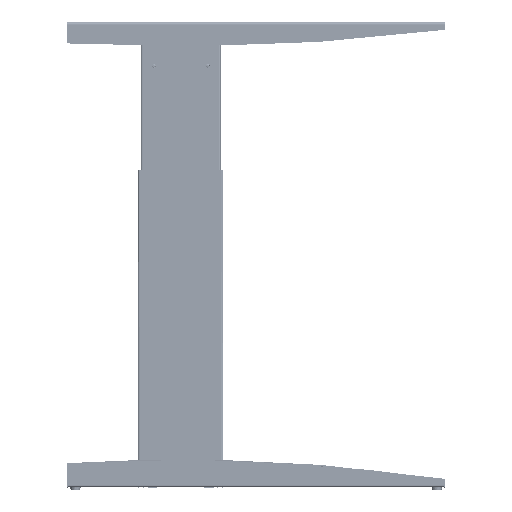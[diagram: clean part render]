
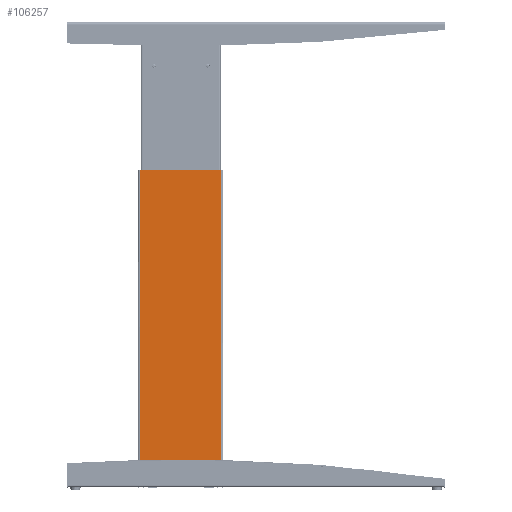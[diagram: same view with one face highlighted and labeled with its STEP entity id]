
A CAD part, left-side view. The second image highlights one B-rep face of the part: STEP entity #106257.
In plain terms, the highlighted planar face has unit normal (-1, 0, 0).
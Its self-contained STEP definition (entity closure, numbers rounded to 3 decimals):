
#2108 = DIRECTION ( 'NONE',  ( -1., 0., 0. ) ) ;
#5170 = CARTESIAN_POINT ( 'NONE',  ( 0., -78.85, 612. ) ) ;
#8661 = CARTESIAN_POINT ( 'NONE',  ( 0., -82.5, 2. ) ) ;
#9158 = CARTESIAN_POINT ( 'NONE',  ( 0., 82.5, 612. ) ) ;
#10451 = VECTOR ( 'NONE', #102966, 1000. ) ;
#14215 = DIRECTION ( 'NONE',  ( 0., 0., 1. ) ) ;
#17275 = LINE ( 'NONE', #71971, #43100 ) ;
#18757 = LINE ( 'NONE', #5170, #113087 ) ;
#27929 = ORIENTED_EDGE ( 'NONE', *, *, #39404, .T. ) ;
#33728 = EDGE_LOOP ( 'NONE', ( #76167, #119293, #89631, #27929 ) ) ;
#36413 = CARTESIAN_POINT ( 'NONE',  ( 0., 78.85, 2. ) ) ;
#36912 = LINE ( 'NONE', #8661, #10451 ) ;
#37085 = EDGE_CURVE ( 'NONE', #106897, #40997, #36912, .T. ) ;
#39404 = EDGE_CURVE ( 'NONE', #106897, #55574, #18757, .T. ) ;
#40997 = VERTEX_POINT ( 'NONE', #108694 ) ;
#43100 = VECTOR ( 'NONE', #109823, 1000. ) ;
#44688 = VERTEX_POINT ( 'NONE', #60076 ) ;
#48826 = EDGE_CURVE ( 'NONE', #44688, #55574, #17275, .T. ) ;
#52751 = VECTOR ( 'NONE', #120472, 1000. ) ;
#55574 = VERTEX_POINT ( 'NONE', #57587 ) ;
#56308 = AXIS2_PLACEMENT_3D ( 'NONE', #9158, #2108, #86918 ) ;
#57587 = CARTESIAN_POINT ( 'NONE',  ( 0., -78.85, 612. ) ) ;
#60076 = CARTESIAN_POINT ( 'NONE',  ( 0., 78.85, 612. ) ) ;
#61479 = FACE_OUTER_BOUND ( 'NONE', #33728, .T. ) ;
#71971 = CARTESIAN_POINT ( 'NONE',  ( 0., 82.5, 612. ) ) ;
#76167 = ORIENTED_EDGE ( 'NONE', *, *, #48826, .F. ) ;
#76517 = CARTESIAN_POINT ( 'NONE',  ( 0., -78.85, 2. ) ) ;
#79315 = EDGE_CURVE ( 'NONE', #44688, #40997, #101349, .T. ) ;
#86918 = DIRECTION ( 'NONE',  ( 0., -1., 0. ) ) ;
#89631 = ORIENTED_EDGE ( 'NONE', *, *, #37085, .F. ) ;
#93963 = PLANE ( 'NONE',  #56308 ) ;
#101349 = LINE ( 'NONE', #36413, #52751 ) ;
#102966 = DIRECTION ( 'NONE',  ( 0., 1., 0. ) ) ;
#106257 = ADVANCED_FACE ( 'NONE', ( #61479 ), #93963, .T. ) ;
#106897 = VERTEX_POINT ( 'NONE', #76517 ) ;
#108694 = CARTESIAN_POINT ( 'NONE',  ( 0., 78.85, 2. ) ) ;
#109823 = DIRECTION ( 'NONE',  ( 0., -1., 0. ) ) ;
#113087 = VECTOR ( 'NONE', #14215, 1000. ) ;
#119293 = ORIENTED_EDGE ( 'NONE', *, *, #79315, .T. ) ;
#120472 = DIRECTION ( 'NONE',  ( 0., 0., -1. ) ) ;
